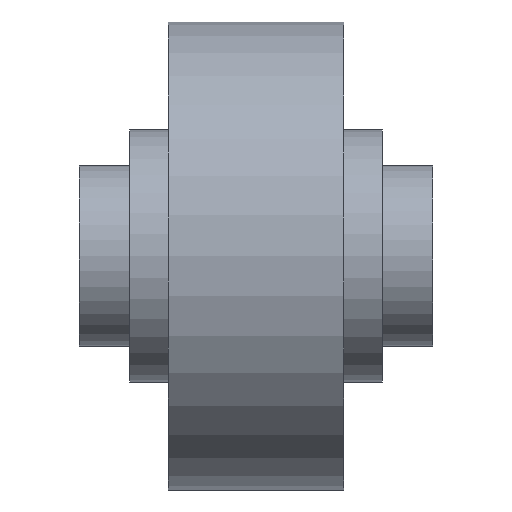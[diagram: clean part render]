
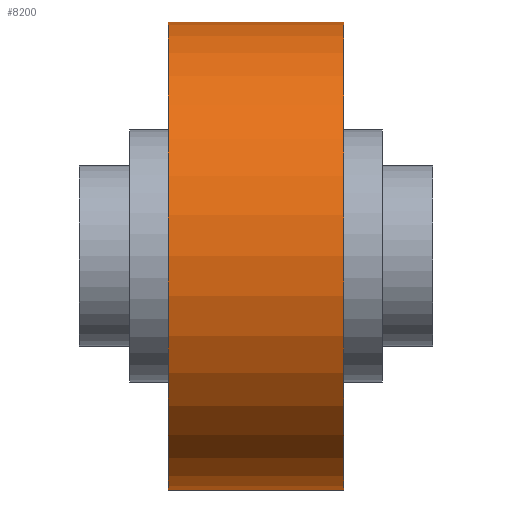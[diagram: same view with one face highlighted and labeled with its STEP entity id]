
A CAD part, top view. The second image highlights one B-rep face of the part: STEP entity #8200.
In plain terms, the highlighted cylindrical face has radius 100 mm (diameter 200 mm), a partial arc.
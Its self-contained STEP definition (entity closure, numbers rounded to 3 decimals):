
#7952=CARTESIAN_POINT('',(37.5,0.,0.));
#7953=DIRECTION('',(1.,0.,0.));
#7954=DIRECTION('',(0.,1.,0.));
#7955=AXIS2_PLACEMENT_3D('',#7952,#7953,#7954);
#7957=DIRECTION('',(-1.,0.,0.));
#7958=VECTOR('',#7957,75.);
#7959=CARTESIAN_POINT('',(37.5,100.,0.));
#7960=LINE('',#7959,#7958);
#7961=DIRECTION('',(-1.,0.,0.));
#7962=VECTOR('',#7961,75.);
#7963=CARTESIAN_POINT('',(37.5,-100.,0.));
#7964=LINE('',#7963,#7962);
#7975=CARTESIAN_POINT('',(-37.5,0.,0.));
#7976=DIRECTION('',(1.,0.,0.));
#7977=DIRECTION('',(0.,1.,0.));
#7978=AXIS2_PLACEMENT_3D('',#7975,#7976,#7977);
#8032=CARTESIAN_POINT('',(37.5,100.,0.));
#8033=CARTESIAN_POINT('',(-37.5,100.,0.));
#8034=VERTEX_POINT('',#8032);
#8035=VERTEX_POINT('',#8033);
#8040=CARTESIAN_POINT('',(37.5,-100.,0.));
#8041=CARTESIAN_POINT('',(-37.5,-100.,0.));
#8042=VERTEX_POINT('',#8040);
#8043=VERTEX_POINT('',#8041);
#8186=CARTESIAN_POINT('',(-41.25,0.,0.));
#8187=DIRECTION('',(1.,0.,0.));
#8188=DIRECTION('',(0.,-1.,0.));
#8189=AXIS2_PLACEMENT_3D('',#8186,#8187,#8188);
#8190=CYLINDRICAL_SURFACE('',#8189,100.);
#8192=ORIENTED_EDGE('',*,*,#8191,.F.);
#8193=ORIENTED_EDGE('',*,*,#8175,.T.);
#8195=ORIENTED_EDGE('',*,*,#8194,.T.);
#8197=ORIENTED_EDGE('',*,*,#8196,.F.);
#8198=EDGE_LOOP('',(#8192,#8193,#8195,#8197));
#8199=FACE_OUTER_BOUND('',#8198,.F.);
#8200=ADVANCED_FACE('',(#8199),#8190,.T.);
#7956=CIRCLE('',#7955,100.);
#7979=CIRCLE('',#7978,100.);
#8175=EDGE_CURVE('',#8034,#8042,#7956,.T.);
#8191=EDGE_CURVE('',#8034,#8035,#7960,.T.);
#8194=EDGE_CURVE('',#8042,#8043,#7964,.T.);
#8196=EDGE_CURVE('',#8035,#8043,#7979,.T.);
